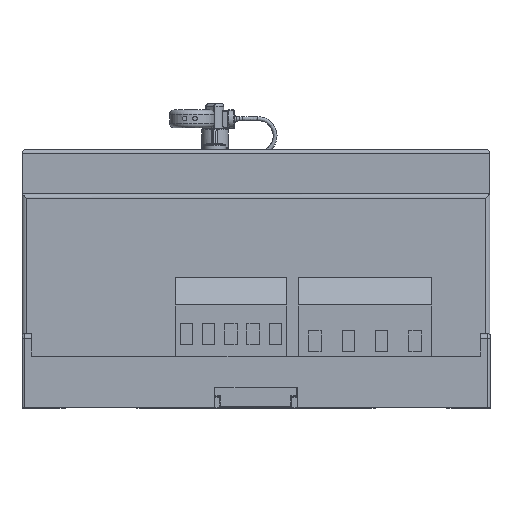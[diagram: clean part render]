
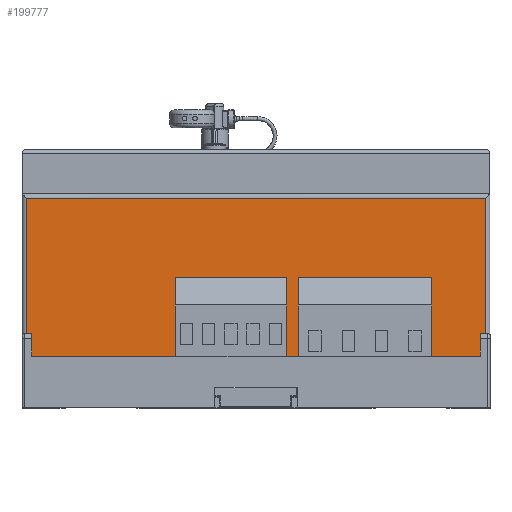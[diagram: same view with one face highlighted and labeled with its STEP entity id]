
A CAD part, top view. The second image highlights one B-rep face of the part: STEP entity #199777.
In plain terms, the highlighted planar face has unit normal (0, 0, 1).
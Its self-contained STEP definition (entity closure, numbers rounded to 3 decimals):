
#588 = CARTESIAN_POINT ( 'NONE',  ( 1.5, -9., 0. ) ) ;
#7628 = EDGE_CURVE ( 'NONE', #68206, #19716, #200020, .T. ) ;
#12790 = CARTESIAN_POINT ( 'NONE',  ( 52.5, -5., 0. ) ) ;
#13529 = DIRECTION ( 'NONE',  ( 0., -1., 0. ) ) ;
#14530 = ORIENTED_EDGE ( 'NONE', *, *, #110656, .F. ) ;
#17976 = LINE ( 'NONE', #219707, #188369 ) ;
#19176 = LINE ( 'NONE', #102969, #189538 ) ;
#19716 = VERTEX_POINT ( 'NONE', #12790 ) ;
#19868 = VERTEX_POINT ( 'NONE', #152731 ) ;
#35051 = LINE ( 'NONE', #156767, #198453 ) ;
#35921 = FACE_OUTER_BOUND ( 'NONE', #51099, .T. ) ;
#39027 = CARTESIAN_POINT ( 'NONE',  ( 3., -5., 0. ) ) ;
#39391 = VECTOR ( 'NONE', #287071, 1000. ) ;
#39550 = VECTOR ( 'NONE', #242420, 1000. ) ;
#44299 = CARTESIAN_POINT ( 'NONE',  ( 1.5, -5., 0. ) ) ;
#47903 = VERTEX_POINT ( 'NONE', #235944 ) ;
#50801 = VERTEX_POINT ( 'NONE', #108175 ) ;
#50956 = EDGE_CURVE ( 'NONE', #271958, #77627, #35051, .T. ) ;
#51099 = EDGE_LOOP ( 'NONE', ( #193301, #269077, #14530, #262364, #276209, #51650, #62613, #99049, #140086, #259515, #86186 ) ) ;
#51650 = ORIENTED_EDGE ( 'NONE', *, *, #7628, .F. ) ;
#52137 = DIRECTION ( 'NONE',  ( 0.707, 0.707, 0. ) ) ;
#55377 = LINE ( 'NONE', #257342, #284706 ) ;
#56847 = CARTESIAN_POINT ( 'NONE',  ( 0., 31.5, 0. ) ) ;
#62613 = ORIENTED_EDGE ( 'NONE', *, *, #262071, .T. ) ;
#66620 = DIRECTION ( 'NONE',  ( 0., -1., 0. ) ) ;
#68206 = VERTEX_POINT ( 'NONE', #127645 ) ;
#73473 = CARTESIAN_POINT ( 'NONE',  ( 103.5, -6.5, 0. ) ) ;
#77617 = VECTOR ( 'NONE', #157258, 1000. ) ;
#77627 = VERTEX_POINT ( 'NONE', #220084 ) ;
#79117 = PLANE ( 'NONE',  #243130 ) ;
#79881 = VECTOR ( 'NONE', #52137, 1000. ) ;
#86186 = ORIENTED_EDGE ( 'NONE', *, *, #91059, .T. ) ;
#91059 = EDGE_CURVE ( 'NONE', #50801, #276355, #195800, .T. ) ;
#91566 = DIRECTION ( 'NONE',  ( 1., 0., 0. ) ) ;
#95597 = CARTESIAN_POINT ( 'NONE',  ( 104., 31.5, 0. ) ) ;
#96829 = CARTESIAN_POINT ( 'NONE',  ( 1.5, -6.5, 0. ) ) ;
#98590 = LINE ( 'NONE', #108437, #39391 ) ;
#99049 = ORIENTED_EDGE ( 'NONE', *, *, #206269, .T. ) ;
#101524 = DIRECTION ( 'NONE',  ( -1., 0., 0. ) ) ;
#102969 = CARTESIAN_POINT ( 'NONE',  ( 1., 31.5, 0. ) ) ;
#107661 = VERTEX_POINT ( 'NONE', #73473 ) ;
#108175 = CARTESIAN_POINT ( 'NONE',  ( 104., 30.5, 0. ) ) ;
#108437 = CARTESIAN_POINT ( 'NONE',  ( 1.5, -9., 0. ) ) ;
#110656 = EDGE_CURVE ( 'NONE', #47903, #169968, #283823, .T. ) ;
#112189 = EDGE_CURVE ( 'NONE', #19868, #169968, #98590, .T. ) ;
#127645 = CARTESIAN_POINT ( 'NONE',  ( 102., -5., 0. ) ) ;
#134035 = VECTOR ( 'NONE', #253665, 1000. ) ;
#134885 = CARTESIAN_POINT ( 'NONE',  ( 0., 30.5, 0. ) ) ;
#140086 = ORIENTED_EDGE ( 'NONE', *, *, #50956, .T. ) ;
#140348 = DIRECTION ( 'NONE',  ( 0., 1., 0. ) ) ;
#152731 = CARTESIAN_POINT ( 'NONE',  ( 1., -9., 0. ) ) ;
#156767 = CARTESIAN_POINT ( 'NONE',  ( 105., -9., 0. ) ) ;
#157258 = DIRECTION ( 'NONE',  ( -1., 0., 0. ) ) ;
#167699 = DIRECTION ( 'NONE',  ( 0., 0., -1. ) ) ;
#169968 = VERTEX_POINT ( 'NONE', #588 ) ;
#170105 = DIRECTION ( 'NONE',  ( 0., -1., 0. ) ) ;
#175699 = VECTOR ( 'NONE', #140348, 1000. ) ;
#186707 = CARTESIAN_POINT ( 'NONE',  ( 1.5, -5., 0. ) ) ;
#188148 = VERTEX_POINT ( 'NONE', #39027 ) ;
#188369 = VECTOR ( 'NONE', #242965, 1000. ) ;
#189538 = VECTOR ( 'NONE', #170105, 1000. ) ;
#193301 = ORIENTED_EDGE ( 'NONE', *, *, #237573, .T. ) ;
#195800 = LINE ( 'NONE', #134885, #77617 ) ;
#198453 = VECTOR ( 'NONE', #91566, 1000. ) ;
#199502 = EDGE_CURVE ( 'NONE', #19716, #188148, #216798, .T. ) ;
#199777 = ADVANCED_FACE ( 'NONE', ( #35921 ), #79117, .F. ) ;
#200020 = LINE ( 'NONE', #186707, #134035 ) ;
#206269 = EDGE_CURVE ( 'NONE', #107661, #271958, #55377, .T. ) ;
#216798 = LINE ( 'NONE', #220123, #39550 ) ;
#219707 = CARTESIAN_POINT ( 'NONE',  ( 102., -5., 0. ) ) ;
#220084 = CARTESIAN_POINT ( 'NONE',  ( 104., -9., 0. ) ) ;
#220123 = CARTESIAN_POINT ( 'NONE',  ( 1.5, -5., 0. ) ) ;
#220604 = CARTESIAN_POINT ( 'NONE',  ( 1., 30.5, 0. ) ) ;
#234664 = LINE ( 'NONE', #95597, #175699 ) ;
#235944 = CARTESIAN_POINT ( 'NONE',  ( 1.5, -6.5, 0. ) ) ;
#237573 = EDGE_CURVE ( 'NONE', #276355, #19868, #19176, .T. ) ;
#242420 = DIRECTION ( 'NONE',  ( -1., 0., 0. ) ) ;
#242965 = DIRECTION ( 'NONE',  ( 0.707, -0.707, 0. ) ) ;
#243130 = AXIS2_PLACEMENT_3D ( 'NONE', #56847, #167699, #101524 ) ;
#248550 = CARTESIAN_POINT ( 'NONE',  ( 103.5, -9., 0. ) ) ;
#250261 = LINE ( 'NONE', #96829, #79881 ) ;
#253665 = DIRECTION ( 'NONE',  ( -1., 0., 0. ) ) ;
#257342 = CARTESIAN_POINT ( 'NONE',  ( 103.5, -5., 0. ) ) ;
#259515 = ORIENTED_EDGE ( 'NONE', *, *, #276044, .T. ) ;
#262071 = EDGE_CURVE ( 'NONE', #68206, #107661, #17976, .T. ) ;
#262364 = ORIENTED_EDGE ( 'NONE', *, *, #273522, .T. ) ;
#269077 = ORIENTED_EDGE ( 'NONE', *, *, #112189, .T. ) ;
#271958 = VERTEX_POINT ( 'NONE', #248550 ) ;
#273522 = EDGE_CURVE ( 'NONE', #47903, #188148, #250261, .T. ) ;
#276044 = EDGE_CURVE ( 'NONE', #77627, #50801, #234664, .T. ) ;
#276209 = ORIENTED_EDGE ( 'NONE', *, *, #199502, .F. ) ;
#276355 = VERTEX_POINT ( 'NONE', #220604 ) ;
#276861 = VECTOR ( 'NONE', #66620, 1000. ) ;
#283823 = LINE ( 'NONE', #44299, #276861 ) ;
#284706 = VECTOR ( 'NONE', #13529, 1000. ) ;
#287071 = DIRECTION ( 'NONE',  ( 1., 0., 0. ) ) ;
